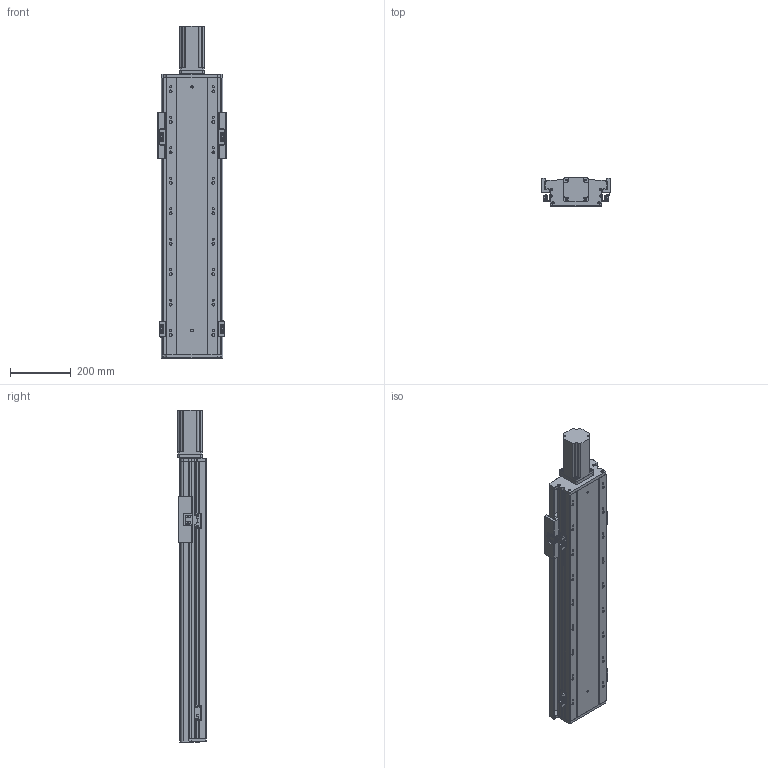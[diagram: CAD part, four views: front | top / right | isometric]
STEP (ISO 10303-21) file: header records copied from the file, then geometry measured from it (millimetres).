
FILE_DESCRIPTION (( 'STEP AP203' ), '1' );
FILE_NAME ('RY170FB-L2510-300-MK.SLDASM_600.step', '2021-02-22T08:56:37', ( '盈信电脑' ), ( '东莞市道滘镇水果街19号' ), 'SwSTEP 2.0', 'SolidWorks 2012', '' );
FILE_SCHEMA (( 'CONFIG_CONTROL_DESIGN' ));
Length unit declared in the file: millimetre
Products named in the file (16): RY140-674嫖萇耀輸; 覜茼ん674; 侂狟750W萇儂ㄗ80遺ㄘ; RY140直线电机感应器674光电安装座; 750W萇儂梓袧蛌諉啣; 滅袉蝶18-10; RY170FB-铝滑块(25丝杆）; RY170FB-300奻裔_600; RY170FB-綴裔啣; 滅袉蝶18-28; RY170FB-ヶ裔啣; RY170FB-300倰第菁釱-MK_600; RY170FB-L2510-300-MK.SLDASM_600; RY140FB-覜茼え; RY140FB-674嫖萇覜茼え
Assembly tree (20 placements, depth 3):
  RY170FB-L2510-300-MK.SLDASM_600
    RY170FB-300倰第菁釱-MK_600
    RY170FB-綴裔啣
    RY170FB-ヶ裔啣
    滅袉蝶18-28
    滅袉蝶18-10
    RY170FB-铝滑块(25丝杆）
    RY170FB-300奻裔_600
    750W萇儂梓袧蛌諉啣
    侂狟750W萇儂ㄗ80遺ㄘ
    RY140-674嫖萇耀輸  x2
      覜茼ん674
      RY140直线电机感应器674光电安装座
    RY140FB-674嫖萇覜茼え
    RY140-674嫖萇耀輸  x2
      覜茼ん674
      RY140直线电机感应器674光电安装座
    RY140FB-覜茼え
Bounding box: 225 x 93.2 x 1089.5 mm (x, y, z)
Volume: 6030604.4 mm3; surface area: 1672605.4 mm2
Topology: 21 solids, 21 shells, 1633 faces, 4685 edges, 3016 vertices
Faces by surface type: cylinder 764, plane 761, cone 108
Entity records: 42129 total; most frequent: CARTESIAN_POINT 9140, ORIENTED_EDGE 6606, DIRECTION 6517, EDGE_CURVE 3303, AXIS2_PLACEMENT_3D 2369, VERTEX_POINT 2170, VECTOR 1779, LINE 1779
